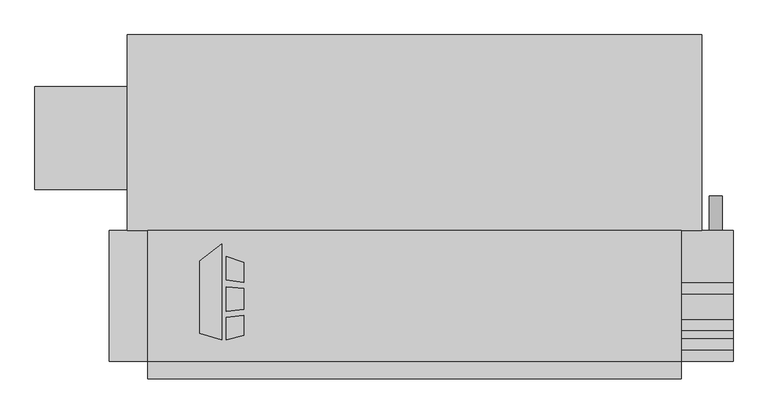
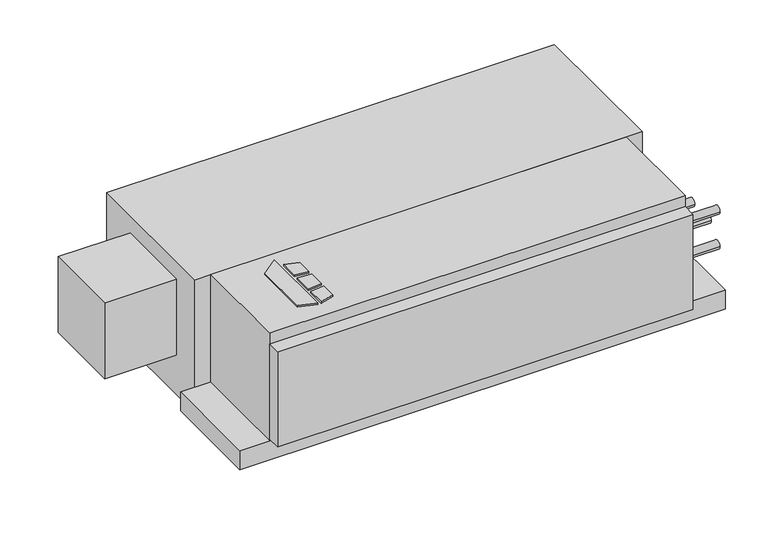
"""IFC4 building model written with IfcOpenShell, lengths in millimetres: proxy geometry, Concealed_Horizontal_Fan_Coil_Unit_With_Plenum_-_CPY_-_IEC_-_4-Pipe_RH_2022 : Size 06 - 277v/60Hz/1Ph - 4/1 Coil."""

from ifc_helpers import new_model, si_unit, point, frame, frame_2d, origin, origin_with_axes, place, context, project, spatial, polyline, circle_curve, trimmed, segment, composite_curve, outline, extrude, source, transform, mapped, element, save


def mechanical_equipment_4620462e(model_context):
    return source(origin(), model_context, "Body", "SweptSolid", [
        extrude(outline(polyline([(-165.1, -186.6953476), (-132.5417033, -161.2580184), (-132.5417033, -303.2125), (-165.1, -292.9929201), (-165.1, -186.6953476)])), origin_with_axes(), (0.0, 0.0, 1.0), 3.175),
        extrude(outline(polyline([(-125.7833703, -214.567352), (-125.7833703, -180.0874379), (-99.7019761, -188.2740115), (-99.7019761, -217.7697446), (-125.7833703, -214.567352)])), origin_with_axes(), (0.0, 0.0, 1.0), 3.175),
        extrude(outline(polyline([(-99.7019761, -296.2240115), (-125.7833703, -303.2125), (-125.7833703, -269.9911996), (-99.7019761, -266.4493564), (-99.7019761, -296.2240115)])), origin_with_axes(), (0.0, 0.0, 1.0), 3.175),
        extrude(outline(polyline([(-99.7019761, -226.8513277), (-99.7019761, -258.101483), (-125.7833703, -260.842748), (-125.7833703, -224.9850378), (-99.7019761, -226.8513277)])), origin_with_axes(), (0.0, 0.0, 1.0), 3.175),
        extrude(outline(composite_curve([segment(trimmed(circle_curve(frame_2d((-241.3, 596.9)), 9.525), [point((-241.3, 587.375))], [point((-241.3, 606.425))], False, "CARTESIAN"), True, "CONTINUOUS"), segment(trimmed(circle_curve(frame_2d((-241.3, 596.9)), 9.525), [point((-241.3, 606.425))], [point((-241.3, 587.375))], False, "CARTESIAN"), True, "CONTINUOUS")], self_intersect=False)), frame((0.0, -141.2875, 0.0), z_axis=(0.0, 1.0, 0.0), x_axis=(0.0, 0.0, 1.0)), (0.0, 0.0, 1.0), 50.8),
        extrude(outline(composite_curve([segment(trimmed(circle_curve(frame_2d((-309.5625, -69.85)), 7.9375), [point((-317.5, -69.85))], [point((-301.625, -69.85))], False, "CARTESIAN"), True, "CONTINUOUS"), segment(trimmed(circle_curve(frame_2d((-309.5625, -69.85)), 7.9375), [point((-301.625, -69.85))], [point((-317.5, -69.85))], False, "CARTESIAN"), True, "CONTINUOUS")], self_intersect=False)), frame((546.1, 0.0, 0.0), z_axis=(1.0, 0.0, 0.0), x_axis=(0.0, 1.0, 0.0)), (0.0, 0.0, 1.0), 76.2),
        extrude(outline(composite_curve([segment(trimmed(circle_curve(frame_2d((-309.5625, -139.7)), 7.9375), [point((-317.5, -139.7))], [point((-301.625, -139.7))], False, "CARTESIAN"), True, "CONTINUOUS"), segment(trimmed(circle_curve(frame_2d((-309.5625, -139.7)), 7.9375), [point((-301.625, -139.7))], [point((-317.5, -139.7))], False, "CARTESIAN"), True, "CONTINUOUS")], self_intersect=False)), frame((546.1, 0.0, 0.0), z_axis=(1.0, 0.0, 0.0), x_axis=(0.0, 1.0, 0.0)), (0.0, 0.0, 1.0), 76.2),
        extrude(outline(composite_curve([segment(trimmed(circle_curve(frame_2d((-227.0125, -104.775)), 7.9375), [point((-234.95, -104.775))], [point((-219.075, -104.775))], False, "CARTESIAN"), True, "CONTINUOUS"), segment(trimmed(circle_curve(frame_2d((-227.0125, -104.775)), 7.9375), [point((-219.075, -104.775))], [point((-234.95, -104.775))], False, "CARTESIAN"), True, "CONTINUOUS")], self_intersect=False)), frame((546.1, 0.0, 0.0), z_axis=(1.0, 0.0, 0.0), x_axis=(0.0, 1.0, 0.0)), (0.0, 0.0, 1.0), 76.2),
        extrude(outline(composite_curve([segment(trimmed(circle_curve(frame_2d((-280.9875, -104.775)), 7.9375), [point((-288.925, -104.775))], [point((-273.05, -104.775))], False, "CARTESIAN"), True, "CONTINUOUS"), segment(trimmed(circle_curve(frame_2d((-280.9875, -104.775)), 7.9375), [point((-273.05, -104.775))], [point((-288.925, -104.775))], False, "CARTESIAN"), True, "CONTINUOUS")], self_intersect=False)), frame((546.1, 0.0, 0.0), z_axis=(1.0, 0.0, 0.0), x_axis=(0.0, 1.0, 0.0)), (0.0, 0.0, 1.0), 76.2),
        extrude(outline(polyline([(546.1, -334.9625), (546.1, -360.3625), (-241.3, -360.3625), (-241.3, -334.9625), (546.1, -334.9625)])), frame((0.0, 0.0, -212.725), z_axis=(0.0, 0.0, 1.0), x_axis=(1.0, 0.0, 0.0)), (0.0, 0.0, 1.0), 190.5),
        extrude(outline(polyline([(546.1, -334.9625), (-241.3, -334.9625), (-241.3, -141.2875), (546.1, -141.2875), (546.1, -334.9625)])), frame((0.0, 0.0, -215.9), z_axis=(0.0, 0.0, 1.0), x_axis=(1.0, 0.0, 0.0)), (0.0, 0.0, 1.0), 215.9),
        extrude(outline(polyline([(622.3, -141.2875), (622.3, -334.9625), (-298.45, -334.9625), (-298.45, -141.2875), (622.3, -141.2875)])), frame((0.0, 0.0, -254.0), z_axis=(0.0, 0.0, 1.0), x_axis=(1.0, 0.0, 0.0)), (0.0, 0.0, 1.0), 38.1),
        extrude(outline(polyline([(-407.9875, -80.9625), (-407.9875, 71.4375), (-271.4625, 71.4375), (-271.4625, -80.9625), (-407.9875, -80.9625)])), frame((0.0, 0.0, -187.325), z_axis=(0.0, 0.0, 1.0), x_axis=(1.0, 0.0, 0.0)), (0.0, 0.0, 1.0), 152.4),
        extrude(outline(polyline([(-271.4625, 147.6375), (576.2625, 147.6375), (576.2625, -141.2875), (-271.4625, -141.2875), (-271.4625, 147.6375)])), frame((0.0, 0.0, -266.7), z_axis=(0.0, 0.0, 1.0), x_axis=(1.0, 0.0, 0.0)), (0.0, 0.0, 1.0), 266.7),
    ])


if __name__ == "__main__":
    model = new_model("IFC4")
    model_context = context("Model", 3, world=origin())
    ifc_project = project(units=[si_unit("LENGTHUNIT", "METRE", prefix="MILLI")], contexts=[model_context])
    site = spatial("IfcSite", under=ifc_project)
    building = spatial("IfcBuilding", under=site)
    placement = place(None, origin())
    mechanical_equipment_shape = mechanical_equipment_4620462e(model_context)
    element("IfcBuildingElementProxy", 1, Name="Concealed_Horizontal_Fan_Coil_Unit_With_Plenum_-_CPY_-_IEC_-_4-Pipe_RH_2022 : Size 06 - 277v/60Hz/1Ph - 4/1 Coil", ObjectType="Concealed_Horizontal_Fan_Coil_Unit_With_Plenum_-_CPY_-_IEC_-_4-Pipe_RH_2022 : Size 06 - 277v/60Hz/1Ph - 4/1 Coil", at=placement, inside=building, context=model_context, shape_type="MappedRepresentation", body=[
        mapped(mechanical_equipment_shape, transform((0.0, 0.0, 0.0), x_axis=(1.0, 0.0, 0.0), y_axis=(0.0, 1.0, 0.0), z_axis=(0.0, 0.0, 1.0))),
    ])
    save(model, "model.ifc")
